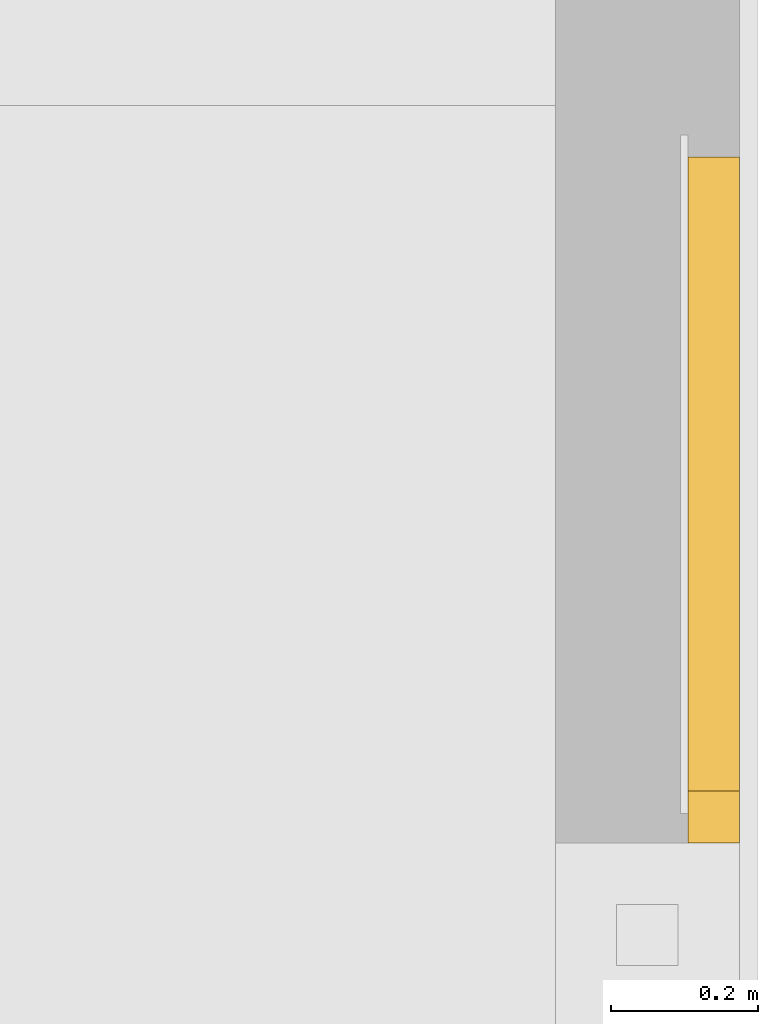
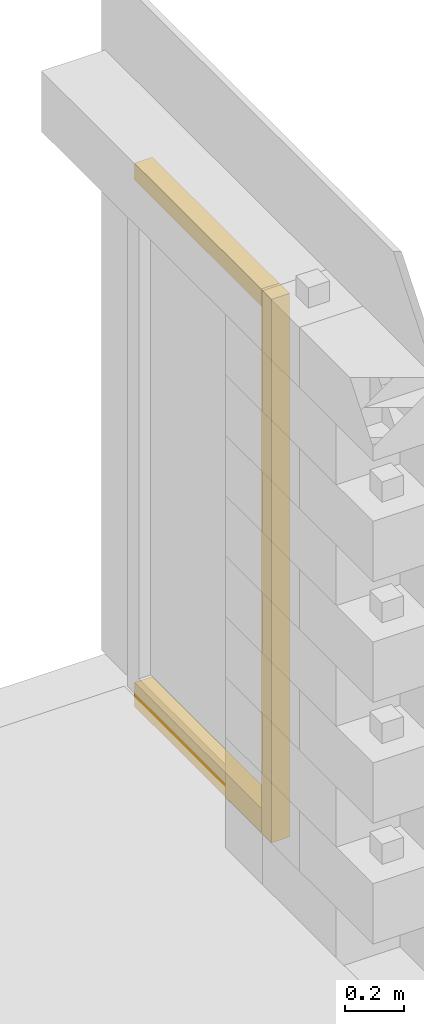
# One storey, part 7 of 8: 3 windows.
"""IFC4 building model written with IfcOpenShell, lengths in centimetres."""

from ifc_helpers import new_model, entity, si_unit, converted_unit, direction, frame, origin, place, context, subcontext, project, spatial, indexed_curve, outline, extrude, source, transform, mapped, material, type_object, type_shapes, element, save


model = new_model("IFC4")

# Units and contexts
model_context = context("Model", 3, precision=0.001, world=origin(), true_north=direction((0.0, 1.0)))
body_context = subcontext(model_context, "Body", "Model", "MODEL_VIEW")
ifc_project = project(units=[si_unit("LENGTHUNIT", "METRE", prefix="CENTI"), si_unit("AREAUNIT", "SQUARE_METRE"), si_unit("VOLUMEUNIT", "CUBIC_METRE"), converted_unit("PLANEANGLEUNIT", "DEGREE", entity("IfcPlaneAngleMeasure", 0.017453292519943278), si_unit("PLANEANGLEUNIT", "RADIAN"), dimensions=[0, 0, 0, 0, 0, 0, 0])], contexts=[model_context])

# Site, building, storey
site_placement = place(None, origin())
site = spatial("IfcSite", under=ifc_project, at=site_placement, Name="Default", CompositionType="ELEMENT")
building_placement = place(site_placement, origin())
building = spatial("IfcBuilding", under=site, at=building_placement, CompositionType="ELEMENT")
storey_placement = place(building_placement, frame((0.0, 0.0, -4.0)))
storey = spatial("IfcBuildingStorey", under=building, at=storey_placement, Name="L00__ABOVE Slab", CompositionType="ELEMENT", Elevation=-4.000000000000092)

# Windows
ifc_material = material(Name="_WINDOW__Profile__Aluminium", Category="Miscellaneous")
window_type_1 = type_object("IfcWindowType", Name="Windows : wdw_s__PROFILE__Frame__wp : Wood", PartitioningType="NOTDEFINED", PredefinedType="WINDOW", material=ifc_material)
shared_shape_1 = source(origin(), body_context, "Body", "SweptSolid", [
    extrude(outline(indexed_curve([(-3.4999999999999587, -3.5000000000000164), (3.4999999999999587, -3.5000000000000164), (3.4999999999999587, 3.5000000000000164), (-3.4999999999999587, 3.5000000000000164), (-3.4999999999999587, -3.5000000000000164)], self_intersect=False)), frame((3.5000000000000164, 3.4999999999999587, 0.0), z_axis=(0.0, 0.0, 1.0), x_axis=(0.0, -1.0, 0.0)), (0.0, 0.0, 1.0), 225.0),
])
type_shapes(window_type_1, [shared_shape_1])
window_1_placement = place(storey_placement, frame((3181.828914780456, 2303.5200309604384, 0.0), z_axis=(0.0, 0.0, 1.0), x_axis=(0.0, 1.0, 0.0)))
element("IfcWindow", 1, at=window_1_placement, inside=storey, type_object=window_type_1, material=ifc_material, Name="Windows : wdw_s__PROFILE__Frame__wp : Wood", OverallHeight=28.355733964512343, OverallWidth=7.000000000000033, PartitioningType="NOTDEFINED", PredefinedType="WINDOW", context=body_context, shape_type="MappedRepresentation", body=[
    mapped(shared_shape_1, transform((0.0, 0.0, 0.0), scale=1.0)),
])
window_type_2 = type_object("IfcWindowType", Name="Windows : wdw_s__PROFILE__Frame__wp : Wood", PartitioningType="NOTDEFINED", PredefinedType="WINDOW", material=ifc_material)
shared_shape_2 = source(origin(), body_context, "Body", "SweptSolid", [
    extrude(outline(indexed_curve([(-3.4999999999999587, -5.000000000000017), (3.4999999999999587, -5.000000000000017), (3.4999999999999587, 5.000000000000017), (-3.4999999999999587, 5.000000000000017), (-3.4999999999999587, -5.000000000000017)], self_intersect=False)), frame((5.0, 3.4999999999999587, 0.0), z_axis=(0.0, 0.0, 1.0), x_axis=(0.0, -1.0, 0.0)), (0.0, 0.0, 1.0), 85.99999999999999),
])
type_shapes(window_type_2, [shared_shape_2])
window_2_placement = place(storey_placement, frame((3181.8289147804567, 2396.520030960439, 0.0), z_axis=(0.0, -1.0, 0.0), x_axis=(0.0, 0.0, 1.0)))
element("IfcWindow", 2, at=window_2_placement, inside=storey, type_object=window_type_2, material=ifc_material, Name="Windows : wdw_s__PROFILE__Frame__wp : Wood", OverallHeight=28.355733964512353, OverallWidth=10.000000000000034, PartitioningType="NOTDEFINED", PredefinedType="WINDOW", context=body_context, shape_type="MappedRepresentation", body=[
    mapped(shared_shape_2, transform((0.0, 0.0, 0.0), scale=1.0)),
])
window_type_3 = type_object("IfcWindowType", Name="Windows : wdw_s__PROFILE__Frame__wp : Wood", PartitioningType="NOTDEFINED", PredefinedType="WINDOW", material=ifc_material)
shared_shape_3 = source(origin(), body_context, "Body", "SweptSolid", [
    extrude(outline(indexed_curve([(-3.5000000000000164, -3.4999999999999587), (3.5000000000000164, -3.4999999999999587), (3.5000000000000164, 3.4999999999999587), (-3.5000000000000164, 3.4999999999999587), (-3.5000000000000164, -3.4999999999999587)], self_intersect=False)), frame((3.5000000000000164, -3.4999999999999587, 0.0)), (0.0, 0.0, 1.0), 85.99999999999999),
])
type_shapes(window_type_3, [shared_shape_3])
window_3_placement = place(storey_placement, frame((3181.8289147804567, 2396.520030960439, 225.0), z_axis=(0.0, -1.0, 0.0), x_axis=(0.0, 0.0, -1.0)))
element("IfcWindow", 3, at=window_3_placement, inside=storey, type_object=window_type_3, material=ifc_material, Name="Windows : wdw_s__PROFILE__Frame__wp : Wood", OverallHeight=28.355733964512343, OverallWidth=7.000000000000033, PartitioningType="NOTDEFINED", PredefinedType="WINDOW", context=body_context, shape_type="MappedRepresentation", body=[
    mapped(shared_shape_3, transform((0.0, 0.0, 0.0), scale=1.0)),
])

save(model, "model.ifc")
